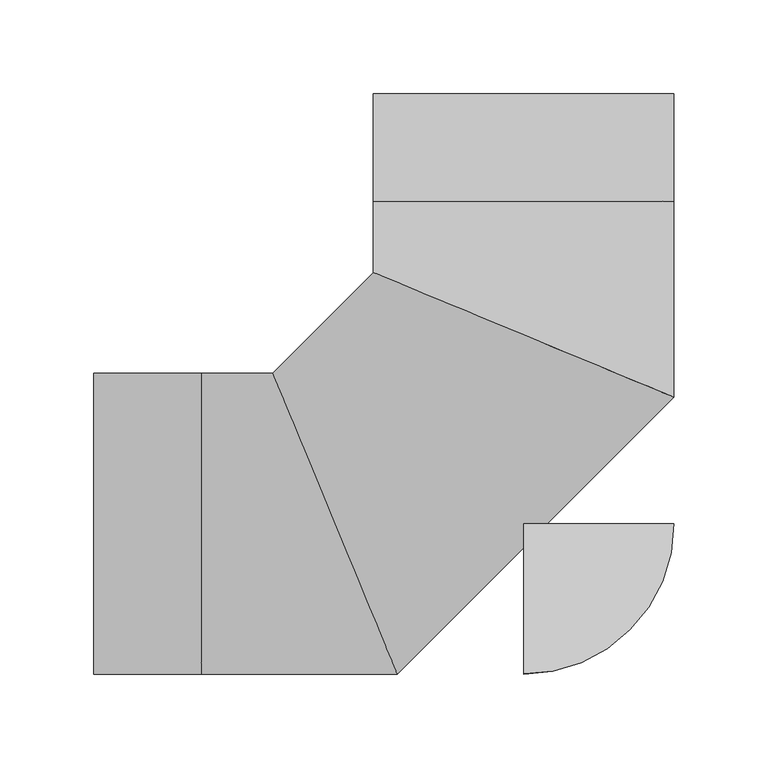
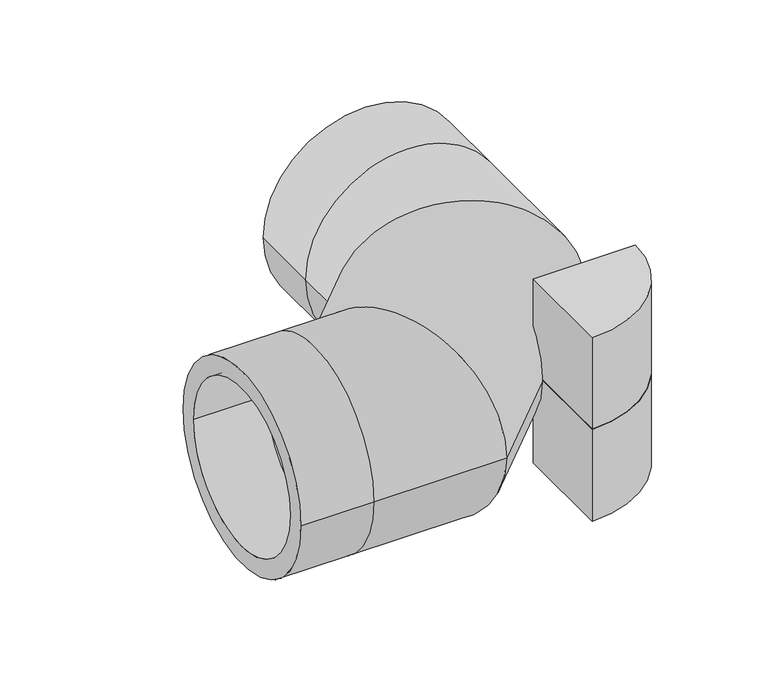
"""IFC4 building model written with IfcOpenShell, lengths in millimetres: pipe fitting geometry, Aquatherm - Elbow Green BW Segmented : SDR 11 NON-FASER."""

from ifc_helpers import new_model, si_unit, point, frame, origin, origin_with_axes, origin_2d, place, context, project, spatial, polyline, circle_curve, ellipse_curve, trimmed, segment, composite_curve, outline, extrude, source, transform, mapped, element, save
from ifc_brep_helpers import plane_surface, cylinder_surface, revolved_surface, advanced_brep


def pipe_fitting_20bfc8b2(model_context):
    return source(origin(), model_context, "Body", "SolidModel", [
        extrude(outline(composite_curve([segment(polyline([(0.0, -80.01), (0.0, 0.0), (80.01, 0.0)]), True, "CONTINUOUS"), segment(trimmed(circle_curve(origin_2d(), 80.01), [point((80.01, 0.0))], [point((0.0, -80.01))], False, "CARTESIAN"), True, "CONTINUOUS")], self_intersect=False)), frame((0.0, 0.0, -76.2), z_axis=(0.0, 0.0, 1.0), x_axis=(1.0, 0.0, 0.0)), (0.0, 0.0, 1.0), 76.2),
        extrude(outline(composite_curve([segment(trimmed(circle_curve(origin_2d(), 80.01), [point((80.01, 0.0))], [point((0.0, -80.01))], False, "CARTESIAN"), True, "CONTINUOUS"), segment(polyline([(0.0, -80.01), (0.0, 0.0), (80.01, 0.0)]), True, "CONTINUOUS")], self_intersect=False)), origin_with_axes(), (0.0, 0.0, 1.0), 76.2),
        advanced_brep(
        [(-228.6, -80.01, 0.0), (-228.6, 80.01, 0.0), (-228.6, -65.4627273, 0.0), (-228.6, 65.4627273, 0.0), (80.01, 228.6, 0.0), (-80.01, 228.6, 0.0), (65.4627273, 228.6, 0.0), (-65.4627273, 228.6, 0.0), (-171.45, -80.01, 0.0), (-171.45, 80.01, 0.0), (-171.45, -65.4627273, 0.0), (-171.45, 65.4627273, 0.0), (-67.2918576, -80.01, 0.0), (-133.5743119, 80.01, 0.0), (-73.3175353, -65.4627273, 0.0), (-127.5486342, 65.4627273, 0.0), (80.01, 67.2918576, 0.0), (-80.01, 133.5743119, 0.0), (65.4627273, 73.3175353, 0.0), (-65.4627273, 127.5486342, 0.0), (-80.01, 171.45, 0.0), (80.01, 171.45, 0.0), (-65.4627273, 171.45, 0.0), (65.4627273, 171.45, 0.0)],
        [
            (0, 1, circle_curve(frame((-228.6, 0.0, 0.0), z_axis=(-1.0, 0.0, 0.0), x_axis=(0.0, 1.0, 0.0)), 80.01)),
            (1, 0, circle_curve(frame((-228.6, 0.0, 0.0), z_axis=(-1.0, 0.0, 0.0), x_axis=(0.0, 1.0, 0.0)), 80.01)),
            (2, 3, circle_curve(frame((-228.6, 0.0, 0.0), z_axis=(1.0, 0.0, 0.0), x_axis=(0.0, 1.0, 0.0)), 65.4627273)),
            (3, 2, circle_curve(frame((-228.6, 0.0, 0.0), z_axis=(1.0, 0.0, 0.0), x_axis=(0.0, 1.0, 0.0)), 65.4627273)),
            (4, 5, circle_curve(frame((0.0, 228.6, 0.0), z_axis=(0.0, 1.0, 0.0), x_axis=(-1.0, 0.0, 0.0)), 80.01)),
            (5, 4, circle_curve(frame((0.0, 228.6, 0.0), z_axis=(0.0, 1.0, 0.0), x_axis=(-1.0, 0.0, 0.0)), 80.01)),
            (6, 7, circle_curve(frame((0.0, 228.6, 0.0), z_axis=(0.0, -1.0, 0.0), x_axis=(-1.0, 0.0, 0.0)), 65.4627273)),
            (7, 6, circle_curve(frame((0.0, 228.6, 0.0), z_axis=(0.0, -1.0, 0.0), x_axis=(-1.0, 0.0, 0.0)), 65.4627273)),
            (0, 8),
            (8, 9, circle_curve(frame((-171.45, 0.0, 0.0), z_axis=(-1.0, 0.0, 0.0), x_axis=(0.0, 1.0, 0.0)), 80.01)),
            (9, 1),
            (9, 8, circle_curve(frame((-171.45, 0.0, 0.0), z_axis=(-1.0, 0.0, 0.0), x_axis=(0.0, 1.0, 0.0)), 80.01)),
            (2, 10),
            (10, 11, circle_curve(frame((-171.45, 0.0, 0.0), z_axis=(1.0, 0.0, 0.0), x_axis=(0.0, 1.0, 0.0)), 65.4627273)),
            (11, 3),
            (11, 10, circle_curve(frame((-171.45, 0.0, 0.0), z_axis=(1.0, 0.0, 0.0), x_axis=(0.0, 1.0, 0.0)), 65.4627273)),
            (8, 12),
            (12, 13, ellipse_curve(frame((-100.4330847, 0.0, 0.0), z_axis=(-0.9238795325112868, -0.3826834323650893, 0.0), x_axis=(-0.3826834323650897, 0.9238795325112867, 0.0)), 86.6021999, 80.01)),
            (13, 9),
            (13, 12, ellipse_curve(frame((-100.4330847, 0.0, 0.0), z_axis=(-0.9238795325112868, -0.3826834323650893, 0.0), x_axis=(-0.3826834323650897, 0.9238795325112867, 0.0)), 86.6021999, 80.01)),
            (10, 14),
            (14, 15, ellipse_curve(frame((-100.4330847, 0.0, 0.0), z_axis=(0.9238795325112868, 0.3826834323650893, 0.0), x_axis=(0.3826834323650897, -0.9238795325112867, 0.0)), 70.8563454, 65.4627273)),
            (15, 11),
            (15, 14, ellipse_curve(frame((-100.4330847, 0.0, 0.0), z_axis=(0.9238795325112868, 0.3826834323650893, 0.0), x_axis=(0.3826834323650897, -0.9238795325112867, 0.0)), 70.8563454, 65.4627273)),
            (12, 16),
            (16, 17, ellipse_curve(frame((0.0, 100.4330847, 0.0), z_axis=(-0.3826834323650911, -0.9238795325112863, 0.0), x_axis=(-0.923879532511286, 0.3826834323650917, 0.0)), 86.6021999, 80.01)),
            (17, 13),
            (17, 16, ellipse_curve(frame((0.0, 100.4330847, 0.0), z_axis=(-0.3826834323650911, -0.9238795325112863, 0.0), x_axis=(-0.923879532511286, 0.3826834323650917, 0.0)), 86.6021999, 80.01)),
            (14, 18),
            (18, 19, ellipse_curve(frame((0.0, 100.4330847, 0.0), z_axis=(0.3826834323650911, 0.9238795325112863, 0.0), x_axis=(0.923879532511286, -0.3826834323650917, 0.0)), 70.8563454, 65.4627273)),
            (19, 15),
            (19, 18, ellipse_curve(frame((0.0, 100.4330847, 0.0), z_axis=(0.3826834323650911, 0.9238795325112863, 0.0), x_axis=(0.923879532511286, -0.3826834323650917, 0.0)), 70.8563454, 65.4627273)),
            (20, 21, circle_curve(frame((0.0, 171.45, 0.0), z_axis=(0.0, 1.0, 0.0), x_axis=(-1.0, 0.0, 0.0)), 80.01)),
            (21, 4),
            (5, 20),
            (21, 20, circle_curve(frame((0.0, 171.45, 0.0), z_axis=(0.0, 1.0, 0.0), x_axis=(-1.0, 0.0, 0.0)), 80.01)),
            (22, 23, circle_curve(frame((0.0, 171.45, 0.0), z_axis=(0.0, -1.0, 0.0), x_axis=(-1.0, 0.0, 0.0)), 65.4627273)),
            (23, 6),
            (7, 22),
            (23, 22, circle_curve(frame((0.0, 171.45, 0.0), z_axis=(0.0, -1.0, 0.0), x_axis=(-1.0, 0.0, 0.0)), 65.4627273)),
            (16, 21),
            (20, 17),
            (18, 23),
            (22, 19),
        ],
        [
            plane_surface(frame((-228.6, 0.0, 0.0), z_axis=(-1.0, 0.0, 0.0), x_axis=(0.0, 0.0, 1.0))),
            plane_surface(frame((0.0, 228.6, 0.0), z_axis=(0.0, 1.0, 0.0), x_axis=(0.0, 0.0, 1.0))),
            cylinder_surface(frame((-228.6, 0.0, 0.0), z_axis=(-1.0, 0.0, 0.0), x_axis=(0.0, 1.0, 0.0)), 80.01),
            revolved_surface(polyline([(-171.45, 65.4627273, 0.0), (-228.6, 65.4627273, 0.0)]), (-228.6, 0.0, 0.0), (1.0, 0.0, 0.0)),
            cylinder_surface(frame((-171.45, 0.0, 0.0), z_axis=(-1.0, 0.0, 0.0), x_axis=(0.0, 1.0, 0.0)), 80.01),
            revolved_surface(polyline([(-73.31753523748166, 65.4627273, 0.0), (-171.45, 65.4627273, 0.0)]), (-171.45, 0.0, 0.0), (1.0, 0.0, 0.0)),
            cylinder_surface(frame((-100.4330847, 0.0, 0.0), z_axis=(-0.7071067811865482, -0.7071067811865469, 0.0), x_axis=(-0.7071067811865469, 0.7071067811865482, 0.0)), 80.01),
            revolved_surface(polyline([(-27.115549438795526, 165.89581203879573, 0.0), (-165.89581203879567, 27.11554943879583, 0.0)]), (-100.4330847, 0.0, 0.0), (0.7071067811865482, 0.7071067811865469, 0.0)),
            cylinder_surface(frame((0.0, 171.45, 0.0), z_axis=(0.0, -1.0, 0.0), x_axis=(-1.0, 0.0, 0.0)), 80.01),
            revolved_surface(polyline([(-65.4627273, 228.6, 0.0), (-65.4627273, 171.45, 0.0)]), (0.0, 171.45, 0.0), (0.0, 1.0, 0.0)),
            cylinder_surface(frame((0.0, 100.4330847, 0.0), z_axis=(0.0, -1.0, 0.0), x_axis=(-1.0, 0.0, 0.0)), 80.01),
            revolved_surface(polyline([(-65.4627273, 171.45, 0.0), (-65.4627273, 73.31753523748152, 0.0)]), (0.0, 100.4330847, 0.0), (0.0, 1.0, 0.0)),
        ],
        [
            (0, [[1, 2], [3, 4]]),
            (1, [[5, 6], [7, 8]]),
            (2, [[-1, 9, 10, 11]]),
            (2, [[-2, -11, 12, -9]]),
            (3, [[-3, 13, 14, 15]]),
            (3, [[-4, -15, 16, -13]]),
            (4, [[-10, 17, 18, 19]]),
            (4, [[-12, -19, 20, -17]]),
            (5, [[-14, 21, 22, 23]]),
            (5, [[-16, -23, 24, -21]]),
            (6, [[-18, 25, 26, 27]]),
            (6, [[-20, -27, 28, -25]]),
            (7, [[-22, 29, 30, 31]]),
            (7, [[-24, -31, 32, -29]]),
            (8, [[33, 34, -6, 35]]),
            (8, [[36, -35, -5, -34]]),
            (9, [[37, 38, -8, 39]]),
            (9, [[40, -39, -7, -38]]),
            (10, [[-26, 41, -33, 42]]),
            (10, [[-28, -42, -36, -41]]),
            (11, [[-30, 43, -37, 44]]),
            (11, [[-32, -44, -40, -43]]),
        ],
    ),
    ])


if __name__ == "__main__":
    model = new_model("IFC4")
    model_context = context("Model", 3, world=origin())
    ifc_project = project(units=[si_unit("LENGTHUNIT", "METRE", prefix="MILLI")], contexts=[model_context])
    site = spatial("IfcSite", under=ifc_project)
    building = spatial("IfcBuilding", under=site)
    placement = place(None, origin())
    pipe_fitting_shape = pipe_fitting_20bfc8b2(model_context)
    element("IfcPipeFitting", 1, ObjectType="Aquatherm - Elbow Green BW Segmented : SDR 11 NON-FASER", at=placement, inside=building, context=model_context, shape_type="MappedRepresentation", body=[
        mapped(pipe_fitting_shape, transform((0.0, 0.0, 0.0), x_axis=(1.0, 0.0, 0.0), y_axis=(0.0, 1.0, 0.0), z_axis=(0.0, 0.0, 1.0))),
    ])
    save(model, "model.ifc")
